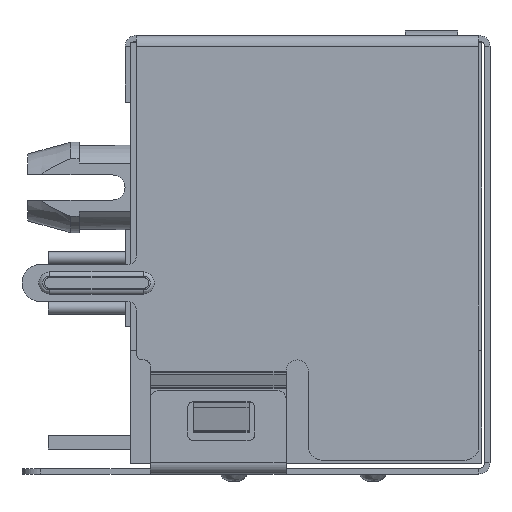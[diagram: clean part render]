
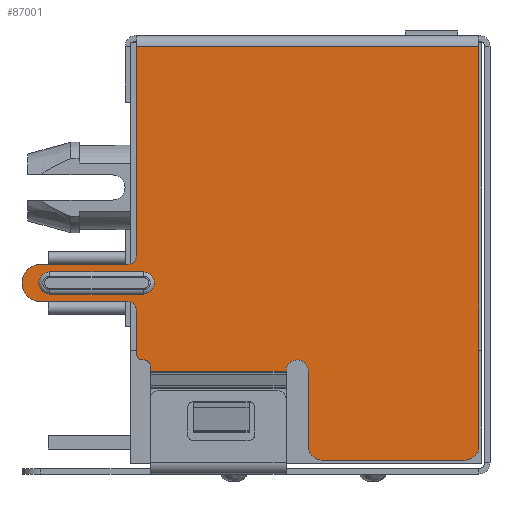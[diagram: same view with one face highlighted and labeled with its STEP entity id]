
A CAD part, front view. The second image highlights one B-rep face of the part: STEP entity #87001.
In plain terms, the highlighted planar face has unit normal (0, -1, 0) as drawn and (1, 0, 0) by its records, which use the part's own axes.
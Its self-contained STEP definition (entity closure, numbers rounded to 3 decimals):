
#78836=DIRECTION('',(0.,0.,1.));
#78837=VECTOR('',#78836,12.3);
#78838=CARTESIAN_POINT('',(31.875,-0.2,-12.3));
#78839=LINE('',#78838,#78837);
#78854=DIRECTION('',(0.,-1.,0.));
#78855=VECTOR('',#78854,7.515);
#78856=CARTESIAN_POINT('',(31.875,-0.2,0.));
#78857=LINE('',#78856,#78855);
#78858=DIRECTION('',(0.,1.,0.));
#78859=VECTOR('',#78858,14.35);
#78860=CARTESIAN_POINT('',(31.875,-14.55,-12.3));
#78861=LINE('',#78860,#78859);
#78862=CARTESIAN_POINT('',(31.875,-14.55,-11.8));
#78863=DIRECTION('',(1.,0.,0.));
#78864=DIRECTION('',(0.,-1.,0.));
#78865=AXIS2_PLACEMENT_3D('',#78862,#78863,#78864);
#78867=DIRECTION('',(0.,0.,-1.));
#78868=VECTOR('',#78867,5.12);
#78869=CARTESIAN_POINT('',(31.875,-15.05,-6.68));
#78870=LINE('',#78869,#78868);
#78871=CARTESIAN_POINT('',(31.875,-14.55,-6.68));
#78872=DIRECTION('',(1.,0.,0.));
#78873=DIRECTION('',(0.,0.,1.));
#78874=AXIS2_PLACEMENT_3D('',#78871,#78872,#78873);
#78876=DIRECTION('',(0.,-1.,0.));
#78877=VECTOR('',#78876,2.7);
#78878=CARTESIAN_POINT('',(31.875,-11.85,-6.18));
#78879=LINE('',#78878,#78877);
#78880=CARTESIAN_POINT('',(31.875,-11.85,-5.78));
#78881=DIRECTION('',(-1.,0.,0.));
#78882=DIRECTION('',(0.,0.,1.));
#78883=AXIS2_PLACEMENT_3D('',#78880,#78881,#78882);
#78885=DIRECTION('',(0.,-1.,0.));
#78886=VECTOR('',#78885,0.18);
#78887=CARTESIAN_POINT('',(31.875,-11.67,-0.5));
#78888=LINE('',#78887,#78886);
#78889=CARTESIAN_POINT('',(31.875,-11.67,-0.28));
#78890=DIRECTION('',(-1.,0.,0.));
#78891=DIRECTION('',(0.,1.,0.));
#78892=AXIS2_PLACEMENT_3D('',#78889,#78890,#78891);
#78894=DIRECTION('',(0.,0.,-1.));
#78895=VECTOR('',#78894,0.06);
#78896=CARTESIAN_POINT('',(31.875,-11.45,-0.22));
#78897=LINE('',#78896,#78895);
#78898=CARTESIAN_POINT('',(31.875,-11.23,-0.22));
#78899=DIRECTION('',(1.,0.,0.));
#78900=DIRECTION('',(0.,0.,1.));
#78901=AXIS2_PLACEMENT_3D('',#78898,#78899,#78900);
#78903=DIRECTION('',(0.,-1.,0.));
#78904=VECTOR('',#78903,1.565);
#78905=CARTESIAN_POINT('',(31.875,-9.665,0.));
#78906=LINE('',#78905,#78904);
#78907=CARTESIAN_POINT('',(31.875,-9.665,0.3));
#78908=DIRECTION('',(-1.,0.,0.));
#78909=DIRECTION('',(0.,1.,0.));
#78910=AXIS2_PLACEMENT_3D('',#78907,#78908,#78909);
#78912=DIRECTION('',(0.,0.,-1.));
#78913=VECTOR('',#78912,3.125);
#78914=CARTESIAN_POINT('',(31.875,-9.365,3.425));
#78915=LINE('',#78914,#78913);
#78916=CARTESIAN_POINT('',(31.875,-8.69,3.425));
#78917=DIRECTION('',(1.,0.,0.));
#78918=DIRECTION('',(0.,1.,0.));
#78919=AXIS2_PLACEMENT_3D('',#78916,#78917,#78918);
#78921=DIRECTION('',(0.,0.,1.));
#78922=VECTOR('',#78921,3.125);
#78923=CARTESIAN_POINT('',(31.875,-8.015,0.3));
#78924=LINE('',#78923,#78922);
#78925=CARTESIAN_POINT('',(31.875,-7.715,0.3));
#78926=DIRECTION('',(-1.,0.,0.));
#78927=DIRECTION('',(0.,0.,-1.));
#78928=AXIS2_PLACEMENT_3D('',#78925,#78926,#78927);
#78930=CARTESIAN_POINT('',(31.875,-8.69,3.1));
#78931=DIRECTION('',(1.,0.,0.));
#78932=DIRECTION('',(0.,1.,0.));
#78933=AXIS2_PLACEMENT_3D('',#78930,#78931,#78932);
#78935=DIRECTION('',(0.,0.,-1.));
#78936=VECTOR('',#78935,3.35);
#78937=CARTESIAN_POINT('',(31.875,-9.09,3.1));
#78938=LINE('',#78937,#78936);
#78939=CARTESIAN_POINT('',(31.875,-8.69,-0.25));
#78940=DIRECTION('',(1.,0.,0.));
#78941=DIRECTION('',(0.,-1.,0.));
#78942=AXIS2_PLACEMENT_3D('',#78939,#78940,#78941);
#78944=DIRECTION('',(0.,0.,1.));
#78945=VECTOR('',#78944,3.35);
#78946=CARTESIAN_POINT('',(31.875,-8.29,-0.25));
#78947=LINE('',#78946,#78945);
#79006=DIRECTION('',(0.,0.,1.));
#79007=VECTOR('',#79006,4.88);
#79008=CARTESIAN_POINT('',(31.875,-11.85,-5.38));
#79009=LINE('',#79008,#79007);
#82264=CARTESIAN_POINT('',(31.875,-11.23,0.));
#82265=CARTESIAN_POINT('',(31.875,-11.45,-0.22));
#82266=VERTEX_POINT('',#82264);
#82267=VERTEX_POINT('',#82265);
#82268=CARTESIAN_POINT('',(31.875,-11.45,-0.28));
#82269=VERTEX_POINT('',#82268);
#82270=CARTESIAN_POINT('',(31.875,-11.67,-0.5));
#82271=VERTEX_POINT('',#82270);
#82272=CARTESIAN_POINT('',(31.875,-11.85,-0.5));
#82273=VERTEX_POINT('',#82272);
#82274=CARTESIAN_POINT('',(31.875,-11.85,-5.38));
#82275=CARTESIAN_POINT('',(31.875,-11.85,-6.18));
#82276=VERTEX_POINT('',#82274);
#82277=VERTEX_POINT('',#82275);
#82278=CARTESIAN_POINT('',(31.875,-14.55,-6.18));
#82279=VERTEX_POINT('',#82278);
#82280=CARTESIAN_POINT('',(31.875,-15.05,-6.68));
#82281=VERTEX_POINT('',#82280);
#82282=CARTESIAN_POINT('',(31.875,-15.05,-11.8));
#82283=VERTEX_POINT('',#82282);
#82284=CARTESIAN_POINT('',(31.875,-14.55,-12.3));
#82285=VERTEX_POINT('',#82284);
#82286=CARTESIAN_POINT('',(31.875,-0.2,-12.3));
#82287=VERTEX_POINT('',#82286);
#82468=CARTESIAN_POINT('',(31.875,-0.2,0.));
#82469=CARTESIAN_POINT('',(31.875,-7.715,0.));
#82470=VERTEX_POINT('',#82468);
#82471=VERTEX_POINT('',#82469);
#82472=CARTESIAN_POINT('',(31.875,-8.015,0.3));
#82473=VERTEX_POINT('',#82472);
#82474=CARTESIAN_POINT('',(31.875,-8.015,3.425));
#82475=VERTEX_POINT('',#82474);
#82476=CARTESIAN_POINT('',(31.875,-9.365,3.425));
#82477=VERTEX_POINT('',#82476);
#82478=CARTESIAN_POINT('',(31.875,-9.365,0.3));
#82479=VERTEX_POINT('',#82478);
#82480=CARTESIAN_POINT('',(31.875,-9.665,0.));
#82481=VERTEX_POINT('',#82480);
#82504=CARTESIAN_POINT('',(31.875,-8.29,3.1));
#82505=CARTESIAN_POINT('',(31.875,-9.09,3.1));
#82506=VERTEX_POINT('',#82504);
#82507=VERTEX_POINT('',#82505);
#82508=CARTESIAN_POINT('',(31.875,-9.09,-0.25));
#82509=VERTEX_POINT('',#82508);
#82510=CARTESIAN_POINT('',(31.875,-8.29,-0.25));
#82511=VERTEX_POINT('',#82510);
#86947=CARTESIAN_POINT('',(31.875,0.2,-2.922));
#86948=DIRECTION('',(1.,0.,0.));
#86949=DIRECTION('',(0.,-1.,0.));
#86950=AXIS2_PLACEMENT_3D('',#86947,#86948,#86949);
#86951=PLANE('',#86950);
#86953=ORIENTED_EDGE('',*,*,#86952,.F.);
#86954=ORIENTED_EDGE('',*,*,#86938,.F.);
#86956=ORIENTED_EDGE('',*,*,#86955,.F.);
#86958=ORIENTED_EDGE('',*,*,#86957,.F.);
#86960=ORIENTED_EDGE('',*,*,#86959,.F.);
#86962=ORIENTED_EDGE('',*,*,#86961,.F.);
#86964=ORIENTED_EDGE('',*,*,#86963,.F.);
#86966=ORIENTED_EDGE('',*,*,#86965,.F.);
#86968=ORIENTED_EDGE('',*,*,#86967,.T.);
#86970=ORIENTED_EDGE('',*,*,#86969,.F.);
#86972=ORIENTED_EDGE('',*,*,#86971,.F.);
#86974=ORIENTED_EDGE('',*,*,#86973,.F.);
#86976=ORIENTED_EDGE('',*,*,#86975,.F.);
#86978=ORIENTED_EDGE('',*,*,#86977,.F.);
#86980=ORIENTED_EDGE('',*,*,#86979,.F.);
#86982=ORIENTED_EDGE('',*,*,#86981,.F.);
#86984=ORIENTED_EDGE('',*,*,#86983,.F.);
#86986=ORIENTED_EDGE('',*,*,#86985,.F.);
#86988=ORIENTED_EDGE('',*,*,#86987,.F.);
#86989=EDGE_LOOP('',(#86953,#86954,#86956,#86958,#86960,#86962,#86964,#86966,
#86968,#86970,#86972,#86974,#86976,#86978,#86980,#86982,#86984,#86986,#86988));
#86990=FACE_OUTER_BOUND('',#86989,.F.);
#86992=ORIENTED_EDGE('',*,*,#86991,.T.);
#86994=ORIENTED_EDGE('',*,*,#86993,.T.);
#86996=ORIENTED_EDGE('',*,*,#86995,.T.);
#86998=ORIENTED_EDGE('',*,*,#86997,.T.);
#86999=EDGE_LOOP('',(#86992,#86994,#86996,#86998));
#87000=FACE_BOUND('',#86999,.F.);
#87001=ADVANCED_FACE('',(#86990,#87000),#86951,.T.);
#78866=CIRCLE('',#78865,0.5);
#78875=CIRCLE('',#78874,0.5);
#78884=CIRCLE('',#78883,0.4);
#78893=CIRCLE('',#78892,0.22);
#78902=CIRCLE('',#78901,0.22);
#78911=CIRCLE('',#78910,0.3);
#78920=CIRCLE('',#78919,0.675);
#78929=CIRCLE('',#78928,0.3);
#78934=CIRCLE('',#78933,0.4);
#78943=CIRCLE('',#78942,0.4);
#86938=EDGE_CURVE('',#82287,#82470,#78839,.T.);
#86952=EDGE_CURVE('',#82470,#82471,#78857,.T.);
#86955=EDGE_CURVE('',#82285,#82287,#78861,.T.);
#86957=EDGE_CURVE('',#82283,#82285,#78866,.T.);
#86959=EDGE_CURVE('',#82281,#82283,#78870,.T.);
#86961=EDGE_CURVE('',#82279,#82281,#78875,.T.);
#86963=EDGE_CURVE('',#82277,#82279,#78879,.T.);
#86965=EDGE_CURVE('',#82276,#82277,#78884,.T.);
#86967=EDGE_CURVE('',#82276,#82273,#79009,.T.);
#86969=EDGE_CURVE('',#82271,#82273,#78888,.T.);
#86971=EDGE_CURVE('',#82269,#82271,#78893,.T.);
#86973=EDGE_CURVE('',#82267,#82269,#78897,.T.);
#86975=EDGE_CURVE('',#82266,#82267,#78902,.T.);
#86977=EDGE_CURVE('',#82481,#82266,#78906,.T.);
#86979=EDGE_CURVE('',#82479,#82481,#78911,.T.);
#86981=EDGE_CURVE('',#82477,#82479,#78915,.T.);
#86983=EDGE_CURVE('',#82475,#82477,#78920,.T.);
#86985=EDGE_CURVE('',#82473,#82475,#78924,.T.);
#86987=EDGE_CURVE('',#82471,#82473,#78929,.T.);
#86991=EDGE_CURVE('',#82506,#82507,#78934,.T.);
#86993=EDGE_CURVE('',#82507,#82509,#78938,.T.);
#86995=EDGE_CURVE('',#82509,#82511,#78943,.T.);
#86997=EDGE_CURVE('',#82511,#82506,#78947,.T.);
